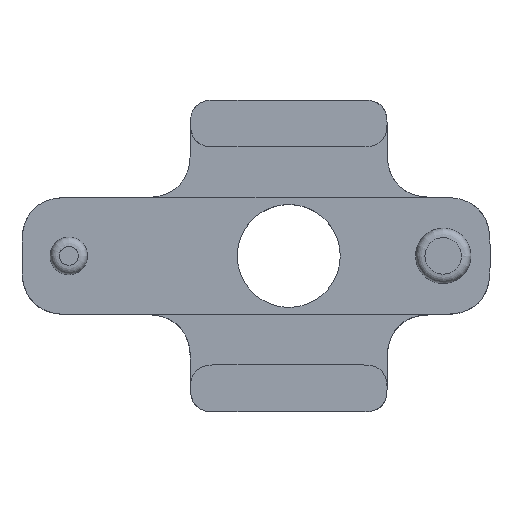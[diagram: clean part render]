
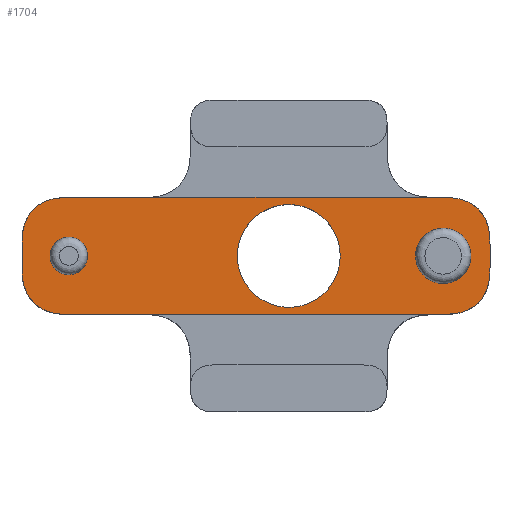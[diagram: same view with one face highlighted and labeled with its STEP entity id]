
A CAD part, top view. The second image highlights one B-rep face of the part: STEP entity #1704.
In plain terms, the highlighted planar face has unit normal (0, 0, 1).
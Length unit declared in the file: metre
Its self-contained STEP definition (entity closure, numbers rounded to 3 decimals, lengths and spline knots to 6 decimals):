
#54=CIRCLE('',#1802,0.0055);
#65=CIRCLE('',#1833,0.00295);
#66=CIRCLE('',#1834,0.002);
#110=B_SPLINE_CURVE_WITH_KNOTS('',3,(#2727,#2728,#2729,#2730,#2731,#2732,
#2733,#2734,#2735,#2736,#2737,#2738,#2739,#2740,#2741,#2742,#2743,#2744,
#2745),.UNSPECIFIED.,.F.,.F.,(4,1,1,1,1,1,1,1,1,1,1,1,1,1,1,1,4),(0.,0.0625,
0.125,0.140625,0.15625,0.1875,0.25,0.375,0.5,0.625,0.75,0.8125,0.875,0.890625,
0.90625,0.9375,1.),.UNSPECIFIED.);
#111=B_SPLINE_CURVE_WITH_KNOTS('',3,(#2746,#2747,#2748,#2749,#2750,#2751,
#2752,#2753,#2754,#2755,#2756,#2757,#2758,#2759,#2760,#2761,#2762,#2763,
#2764),.UNSPECIFIED.,.F.,.F.,(4,1,1,1,1,1,1,1,1,1,1,1,1,1,1,1,4),(0.,0.0625,
0.125,0.140625,0.15625,0.1875,0.25,0.375,0.5,0.625,0.75,0.8125,0.875,0.890625,
0.90625,0.9375,1.),.UNSPECIFIED.);
#112=B_SPLINE_CURVE_WITH_KNOTS('',3,(#2765,#2766,#2767,#2768,#2769,#2770,
#2771,#2772,#2773,#2774,#2775,#2776,#2777,#2778,#2779,#2780,#2781,#2782,
#2783),.UNSPECIFIED.,.F.,.F.,(4,1,1,1,1,1,1,1,1,1,1,1,1,1,1,1,4),(0.,0.0625,
0.125,0.140625,0.15625,0.1875,0.25,0.375,0.5,0.625,0.75,0.8125,0.875,0.890625,
0.90625,0.9375,1.),.UNSPECIFIED.);
#113=B_SPLINE_CURVE_WITH_KNOTS('',3,(#2784,#2785,#2786,#2787,#2788,#2789,
#2790,#2791,#2792,#2793,#2794,#2795,#2796,#2797,#2798,#2799,#2800,#2801,
#2802),.UNSPECIFIED.,.F.,.F.,(4,1,1,1,1,1,1,1,1,1,1,1,1,1,1,1,4),(0.,0.0625,
0.125,0.140625,0.15625,0.1875,0.25,0.375,0.5,0.625,0.75,0.8125,0.875,0.890625,
0.90625,0.9375,1.),.UNSPECIFIED.);
#333=ORIENTED_EDGE('',*,*,#827,.F.);
#334=ORIENTED_EDGE('',*,*,#823,.T.);
#335=ORIENTED_EDGE('',*,*,#828,.T.);
#336=ORIENTED_EDGE('',*,*,#820,.F.);
#337=ORIENTED_EDGE('',*,*,#829,.T.);
#338=ORIENTED_EDGE('',*,*,#687,.F.);
#339=ORIENTED_EDGE('',*,*,#830,.T.);
#340=ORIENTED_EDGE('',*,*,#813,.T.);
#341=ORIENTED_EDGE('',*,*,#831,.T.);
#342=ORIENTED_EDGE('',*,*,#714,.F.);
#343=ORIENTED_EDGE('',*,*,#832,.F.);
#687=EDGE_CURVE('',#946,#947,#1113,.T.);
#714=EDGE_CURVE('',#972,#972,#54,.T.);
#813=EDGE_CURVE('',#1056,#1055,#1192,.T.);
#820=EDGE_CURVE('',#1059,#1060,#1194,.T.);
#823=EDGE_CURVE('',#1062,#1061,#1195,.T.);
#827=EDGE_CURVE('',#1064,#1064,#65,.T.);
#828=EDGE_CURVE('',#1061,#1060,#110,.T.);
#829=EDGE_CURVE('',#1059,#947,#111,.T.);
#830=EDGE_CURVE('',#946,#1056,#112,.T.);
#831=EDGE_CURVE('',#1055,#1062,#113,.T.);
#832=EDGE_CURVE('',#1065,#1065,#66,.T.);
#946=VERTEX_POINT('',#2216);
#947=VERTEX_POINT('',#2217);
#972=VERTEX_POINT('',#2322);
#1055=VERTEX_POINT('',#2675);
#1056=VERTEX_POINT('',#2677);
#1059=VERTEX_POINT('',#2702);
#1060=VERTEX_POINT('',#2704);
#1061=VERTEX_POINT('',#2714);
#1062=VERTEX_POINT('',#2716);
#1064=VERTEX_POINT('',#2726);
#1065=VERTEX_POINT('',#2804);
#1113=LINE('',#2215,#1254);
#1192=LINE('',#2676,#1333);
#1194=LINE('',#2703,#1335);
#1195=LINE('',#2715,#1336);
#1254=VECTOR('',#1892,1.);
#1333=VECTOR('',#2035,1.);
#1335=VECTOR('',#2039,1.);
#1336=VECTOR('',#2042,1.);
#1418=EDGE_LOOP('',(#333));
#1419=EDGE_LOOP('',(#334,#335,#336,#337,#338,#339,#340,#341));
#1420=EDGE_LOOP('',(#342));
#1421=EDGE_LOOP('',(#343));
#1530=FACE_BOUND('',#1418,.T.);
#1531=FACE_BOUND('',#1419,.T.);
#1532=FACE_BOUND('',#1420,.T.);
#1533=FACE_BOUND('',#1421,.T.);
#1638=PLANE('',#1832);
#1704=ADVANCED_FACE('',(#1530,#1531,#1532,#1533),#1638,.T.);
#1802=AXIS2_PLACEMENT_3D('',#2321,#1916,#1917);
#1832=AXIS2_PLACEMENT_3D('',#2724,#2045,#2046);
#1833=AXIS2_PLACEMENT_3D('',#2725,#2047,#2048);
#1834=AXIS2_PLACEMENT_3D('',#2803,#2049,#2050);
#1892=DIRECTION('',(0.,1.,0.));
#1916=DIRECTION('',(0.,0.,1.));
#1917=DIRECTION('',(1.,0.,0.));
#2035=DIRECTION('',(1.,0.,0.));
#2039=DIRECTION('',(1.,0.,0.));
#2042=DIRECTION('',(0.,1.,0.));
#2045=DIRECTION('',(0.,0.,1.));
#2046=DIRECTION('',(1.,0.,0.));
#2047=DIRECTION('',(0.,0.,1.));
#2048=DIRECTION('',(1.,0.,0.));
#2049=DIRECTION('',(0.,0.,1.));
#2050=DIRECTION('',(1.,0.,0.));
#2215=CARTESIAN_POINT('',(-0.025,0.02625,0.01));
#2216=CARTESIAN_POINT('',(-0.025,0.025,0.01));
#2217=CARTESIAN_POINT('',(-0.025,0.0275,0.01));
#2321=CARTESIAN_POINT('',(0.0035,0.02625,0.01));
#2322=CARTESIAN_POINT('',(0.009,0.02625,0.01));
#2675=CARTESIAN_POINT('',(0.02,0.02,0.01));
#2676=CARTESIAN_POINT('',(0.0195,0.02,0.01));
#2677=CARTESIAN_POINT('',(-0.02,0.02,0.01));
#2702=CARTESIAN_POINT('',(-0.02,0.0325,0.01));
#2703=CARTESIAN_POINT('',(0.0195,0.0325,0.01));
#2704=CARTESIAN_POINT('',(0.02,0.0325,0.01));
#2714=CARTESIAN_POINT('',(0.025,0.0275,0.01));
#2715=CARTESIAN_POINT('',(0.025,0.02625,0.01));
#2716=CARTESIAN_POINT('',(0.025,0.025,0.01));
#2724=CARTESIAN_POINT('',(0.,0.02625,0.01));
#2725=CARTESIAN_POINT('',(0.02,0.02625,0.01));
#2726=CARTESIAN_POINT('',(0.02295,0.02625,0.01));
#2727=CARTESIAN_POINT('',(0.025,0.0275,0.01));
#2728=CARTESIAN_POINT('',(0.025,0.027712,0.01));
#2729=CARTESIAN_POINT('',(0.024993,0.028094,0.01));
#2730=CARTESIAN_POINT('',(0.024968,0.028458,0.01));
#2731=CARTESIAN_POINT('',(0.024947,0.028635,0.01));
#2732=CARTESIAN_POINT('',(0.024923,0.028812,0.01));
#2733=CARTESIAN_POINT('',(0.024871,0.029107,0.01));
#2734=CARTESIAN_POINT('',(0.02473,0.029674,0.01));
#2735=CARTESIAN_POINT('',(0.024382,0.030498,0.01));
#2736=CARTESIAN_POINT('',(0.023773,0.03129,0.01));
#2737=CARTESIAN_POINT('',(0.022982,0.031887,0.01));
#2738=CARTESIAN_POINT('',(0.022198,0.032224,0.01));
#2739=CARTESIAN_POINT('',(0.021515,0.032394,0.01));
#2740=CARTESIAN_POINT('',(0.021161,0.032448,0.01));
#2741=CARTESIAN_POINT('',(0.020882,0.032474,0.01));
#2742=CARTESIAN_POINT('',(0.020762,0.032483,0.01));
#2743=CARTESIAN_POINT('',(0.020499,0.032496,0.01));
#2744=CARTESIAN_POINT('',(0.020217,0.0325,0.01));
#2745=CARTESIAN_POINT('',(0.02,0.0325,0.01));
#2746=CARTESIAN_POINT('',(-0.02,0.0325,0.01));
#2747=CARTESIAN_POINT('',(-0.020212,0.0325,0.01));
#2748=CARTESIAN_POINT('',(-0.020594,0.032493,0.01));
#2749=CARTESIAN_POINT('',(-0.020958,0.032468,0.01));
#2750=CARTESIAN_POINT('',(-0.021135,0.032447,0.01));
#2751=CARTESIAN_POINT('',(-0.021312,0.032423,0.01));
#2752=CARTESIAN_POINT('',(-0.021607,0.032371,0.01));
#2753=CARTESIAN_POINT('',(-0.022174,0.03223,0.01));
#2754=CARTESIAN_POINT('',(-0.022998,0.031882,0.01));
#2755=CARTESIAN_POINT('',(-0.02379,0.031273,0.01));
#2756=CARTESIAN_POINT('',(-0.024387,0.030482,0.01));
#2757=CARTESIAN_POINT('',(-0.024724,0.029698,0.01));
#2758=CARTESIAN_POINT('',(-0.024894,0.029015,0.01));
#2759=CARTESIAN_POINT('',(-0.024948,0.028661,0.01));
#2760=CARTESIAN_POINT('',(-0.024974,0.028382,0.01));
#2761=CARTESIAN_POINT('',(-0.024983,0.028262,0.01));
#2762=CARTESIAN_POINT('',(-0.024996,0.027999,0.01));
#2763=CARTESIAN_POINT('',(-0.025,0.027717,0.01));
#2764=CARTESIAN_POINT('',(-0.025,0.0275,0.01));
#2765=CARTESIAN_POINT('',(-0.025,0.025,0.01));
#2766=CARTESIAN_POINT('',(-0.025,0.024788,0.01));
#2767=CARTESIAN_POINT('',(-0.024993,0.024406,0.01));
#2768=CARTESIAN_POINT('',(-0.024968,0.024042,0.01));
#2769=CARTESIAN_POINT('',(-0.024947,0.023865,0.01));
#2770=CARTESIAN_POINT('',(-0.024923,0.023688,0.01));
#2771=CARTESIAN_POINT('',(-0.024871,0.023393,0.01));
#2772=CARTESIAN_POINT('',(-0.02473,0.022826,0.01));
#2773=CARTESIAN_POINT('',(-0.024382,0.022002,0.01));
#2774=CARTESIAN_POINT('',(-0.023773,0.02121,0.01));
#2775=CARTESIAN_POINT('',(-0.022982,0.020613,0.01));
#2776=CARTESIAN_POINT('',(-0.022198,0.020276,0.01));
#2777=CARTESIAN_POINT('',(-0.021515,0.020106,0.01));
#2778=CARTESIAN_POINT('',(-0.021161,0.020052,0.01));
#2779=CARTESIAN_POINT('',(-0.020882,0.020026,0.01));
#2780=CARTESIAN_POINT('',(-0.020762,0.020017,0.01));
#2781=CARTESIAN_POINT('',(-0.020499,0.020004,0.01));
#2782=CARTESIAN_POINT('',(-0.020217,0.02,0.01));
#2783=CARTESIAN_POINT('',(-0.02,0.02,0.01));
#2784=CARTESIAN_POINT('',(0.02,0.02,0.01));
#2785=CARTESIAN_POINT('',(0.020212,0.02,0.01));
#2786=CARTESIAN_POINT('',(0.020594,0.020007,0.01));
#2787=CARTESIAN_POINT('',(0.020958,0.020032,0.01));
#2788=CARTESIAN_POINT('',(0.021135,0.020053,0.01));
#2789=CARTESIAN_POINT('',(0.021312,0.020077,0.01));
#2790=CARTESIAN_POINT('',(0.021607,0.020129,0.01));
#2791=CARTESIAN_POINT('',(0.022174,0.02027,0.01));
#2792=CARTESIAN_POINT('',(0.022998,0.020618,0.01));
#2793=CARTESIAN_POINT('',(0.02379,0.021227,0.01));
#2794=CARTESIAN_POINT('',(0.024387,0.022018,0.01));
#2795=CARTESIAN_POINT('',(0.024724,0.022802,0.01));
#2796=CARTESIAN_POINT('',(0.024894,0.023485,0.01));
#2797=CARTESIAN_POINT('',(0.024948,0.023839,0.01));
#2798=CARTESIAN_POINT('',(0.024974,0.024118,0.01));
#2799=CARTESIAN_POINT('',(0.024983,0.024238,0.01));
#2800=CARTESIAN_POINT('',(0.024996,0.024501,0.01));
#2801=CARTESIAN_POINT('',(0.025,0.024783,0.01));
#2802=CARTESIAN_POINT('',(0.025,0.025,0.01));
#2803=CARTESIAN_POINT('',(-0.02,0.02625,0.01));
#2804=CARTESIAN_POINT('',(-0.018,0.02625,0.01));
